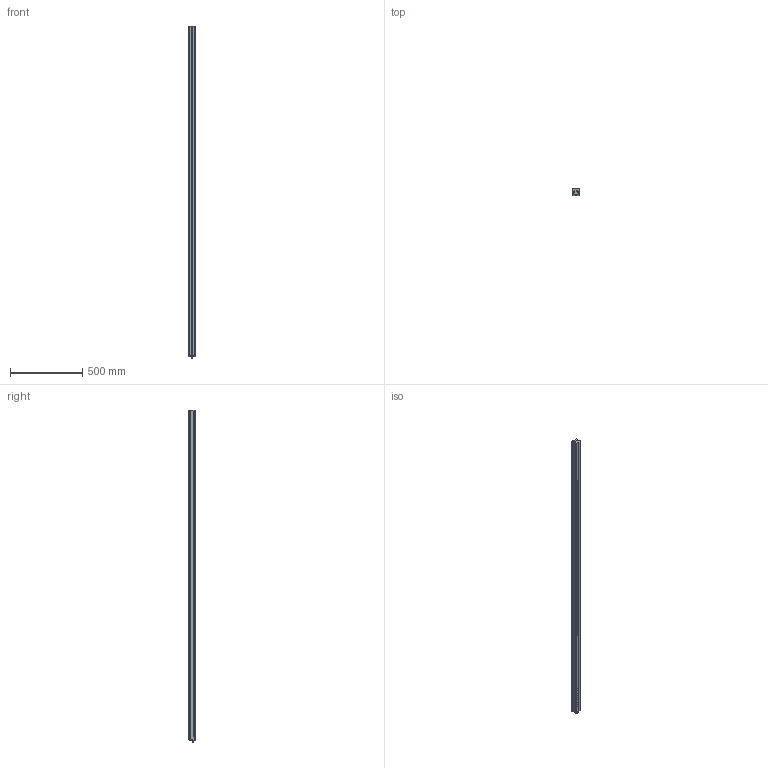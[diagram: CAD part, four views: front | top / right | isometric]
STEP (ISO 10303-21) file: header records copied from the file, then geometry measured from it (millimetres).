
FILE_DESCRIPTION (( 'STEP AP214' ), '1' );
FILE_NAME ('EBAR-HPS-2250-xxx-UN_CLIENT.STEP', '2025-11-18T13:10:29', ( '' ), ( '' ), 'SwSTEP 2.0', 'SolidWorks 2025', '' );
FILE_SCHEMA (( 'AUTOMOTIVE_DESIGN' ));
Length unit declared in the file: millimetre
Products named in the file (3): EBAR-HPS-xxx-xxx-xx_CLIENT - T-Power_2250; EBAR-HPS-2250-xxx-UN_CLIENT; M4 T-Slot Nut
Assembly tree (37 placements, depth 2):
  EBAR-HPS-2250-xxx-UN_CLIENT
    EBAR-HPS-xxx-xxx-xx_CLIENT - T-Power_2250
    M4 T-Slot Nut  x36
Bounding box: 47.63 x 45 x 2295.06 mm (x, y, z)
Volume: 3870905.6 mm3; surface area: 551731.9 mm2
Topology: 37 solids, 37 shells, 1424 faces, 3688 edges, 2428 vertices
Faces by surface type: plane 799, cylinder 371, bspline 140, torus 62, sphere 40, cone 12
Entity records: 29649 total; most frequent: CARTESIAN_POINT 10335, ORIENTED_EDGE 4138, DIRECTION 3640, EDGE_CURVE 2069, VERTEX_POINT 1343, AXIS2_PLACEMENT_3D 1252, VECTOR 1136, LINE 1136
